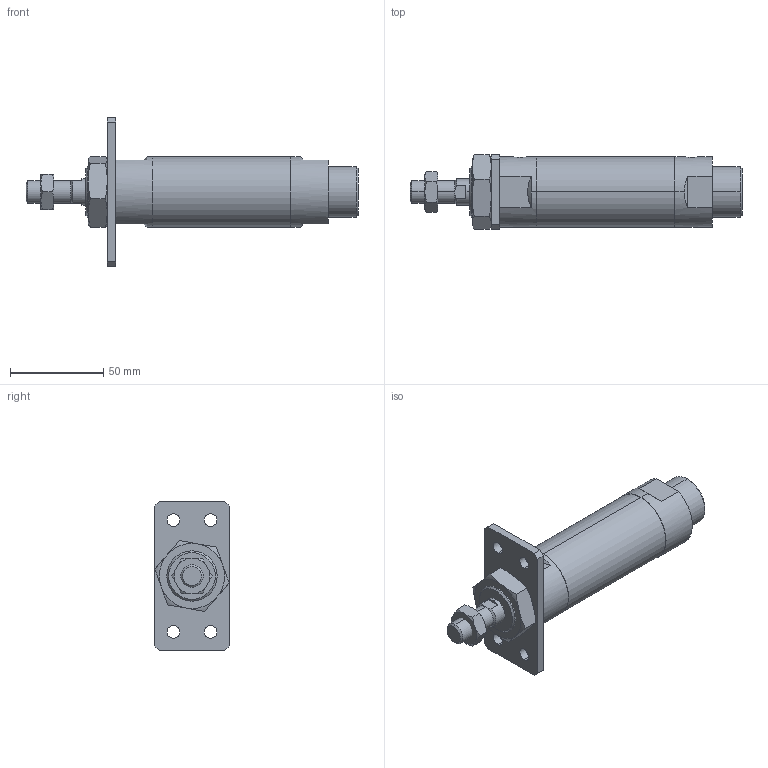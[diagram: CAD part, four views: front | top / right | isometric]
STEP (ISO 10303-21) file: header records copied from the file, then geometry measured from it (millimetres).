
FILE_DESCRIPTION (( 'STEP AP203' ), '1' );
FILE_NAME ('J#2-32-25-A.STEP', '2016-03-08T07:29:26', ( '' ), ( '' ), 'SwSTEP 2.0', 'SolidWorks 2014', '' );
FILE_SCHEMA (( 'CONFIG_CONTROL_DESIGN' ));
Length unit declared in the file: millimetre
Products named in the file (5): J#2-32-A; J#2-32-25-A; J#2-32-25
Assembly tree (4 placements, depth 2):
  J#2-32-25-A
    J#2-32-25
    (unnamed)
    (unnamed)
    J#2-32-A
Bounding box: 178 x 40 x 80 mm (x, y, z)
Volume: 163773.5 mm3; surface area: 31734.5 mm2
Topology: 4 solids, 4 shells, 114 faces, 264 edges, 161 vertices
Faces by surface type: plane 43, cylinder 32, torus 24, cone 15
Entity records: 4214 total; most frequent: CARTESIAN_POINT 1149, DIRECTION 537, ORIENTED_EDGE 520, EDGE_CURVE 260, AXIS2_PLACEMENT_3D 219, VERTEX_POINT 161, EDGE_LOOP 135, FACE_OUTER_BOUND 114
